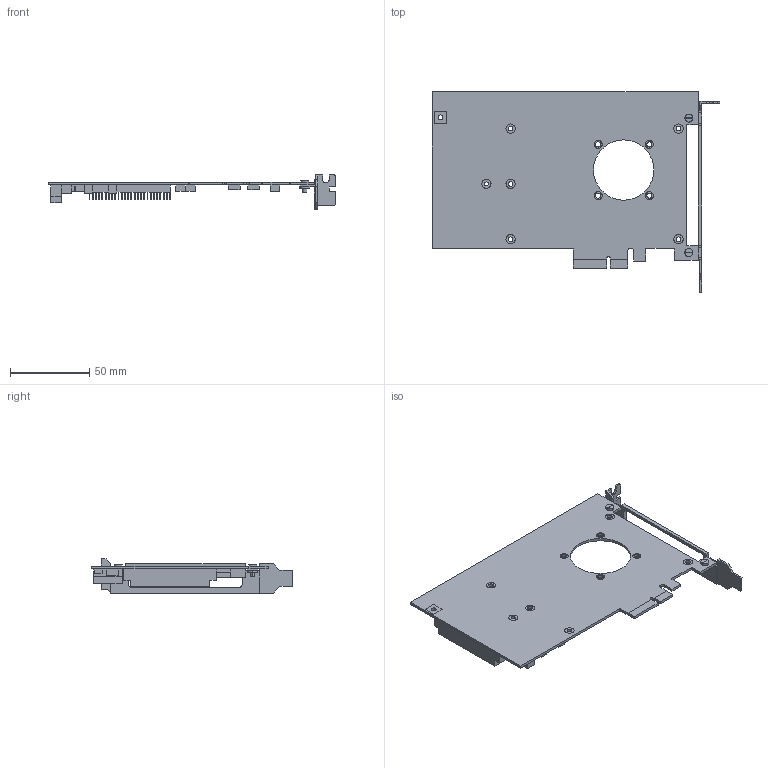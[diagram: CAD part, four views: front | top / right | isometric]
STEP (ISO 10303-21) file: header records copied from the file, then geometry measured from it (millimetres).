
FILE_DESCRIPTION (( 'STEP AP214' ), '1' );
FILE_NAME ('PCIE4-PMC-0.STEP', '2022-06-08T00:07:07', ( '' ), ( '' ), 'SwSTEP 2.0', 'SolidWorks 2021', '' );
FILE_SCHEMA (( 'AUTOMOTIVE_DESIGN' ));
Length unit declared in the file: inch
Products named in the file (1): PCIE4-PMC-0
Bounding box: 181.11 x 126.24 x 21.59 mm (x, y, z)
Volume: 41597.1 mm3; surface area: 52431.9 mm2
Topology: 19 solids, 19 shells, 411 faces, 1056 edges, 719 vertices
Faces by surface type: plane 358, cylinder 53
Entity records: 18057 total; most frequent: CARTESIAN_POINT 2187, ORIENTED_EDGE 2112, DIRECTION 2034, EDGE_CURVE 1056, VECTOR 902, LINE 902, VERTEX_POINT 719, AXIS2_PLACEMENT_3D 566
